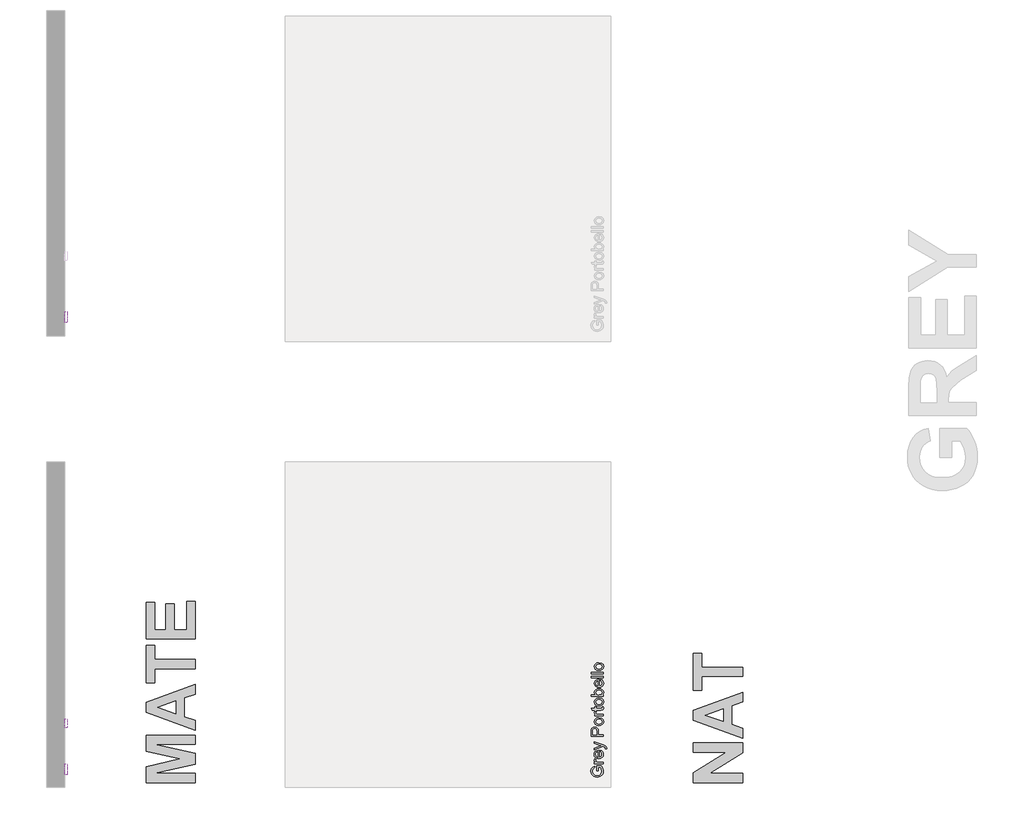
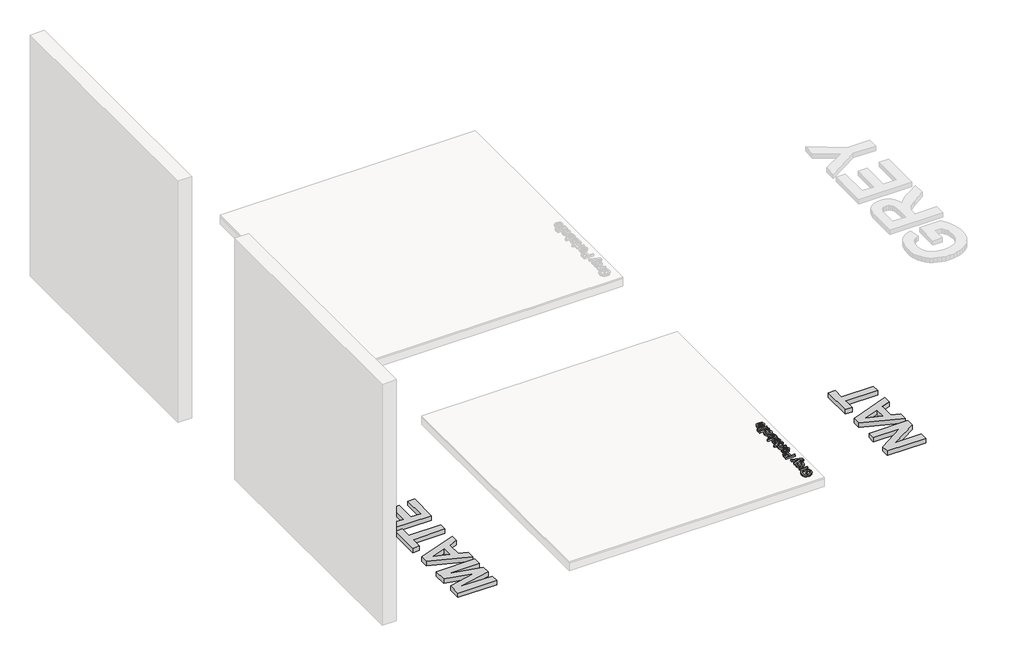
# One storey, part 6 of 8: 7 proxies.
"""IFC4 building model written with IfcOpenShell, lengths in millimetres."""

from ifc_helpers import new_model, si_unit, frame, origin, origin_with_axes, place, context, project, spatial, polyline, outline, extrude, element, save

model = new_model("IFC4")

# Units and contexts
model_context = context("Model", 3, world=origin())
ifc_project = project(units=[si_unit("LENGTHUNIT", "METRE", prefix="MILLI")], contexts=[model_context])

# Site, building, storey
site = spatial("IfcSite", under=ifc_project)
building = spatial("IfcBuilding", under=site)
storey = spatial("IfcBuildingStorey", under=building, Name="PORTOBELLO - SHOWROOM", Elevation=0.0)

# Proxies
placement = place(None, origin())
element("IfcBuildingElementProxy", 1, Name="10mm Arial", ObjectType="10mm Arial", at=placement, inside=storey, context=model_context, shape_type="SweptSolid", body=[
    extrude(outline(polyline([(-3382.1813288, 2099.5594233), (-3394.7383676, 2099.5594233), (-3394.7383676, 2140.3697993), (-3357.1898786, 2140.3697993), (-3345.3440783, 2120.2221287), (-3341.3709528, 2098.9217612), (-3342.9497797, 2084.8349465), (-3347.6862604, 2072.1031638), (-3355.414848, 2061.5265564), (-3365.9699955, 2053.9052677), (-3378.6312675, 2049.2975458), (-3392.6782284, 2047.7616384), (-3406.8263568, 2049.2914144), (-3419.9873352, 2053.8807423), (-3431.0268607, 2061.3395497), (-3438.8106306, 2071.4777644), (-3443.4275496, 2083.8263367), (-3444.9665226, 2097.9162171), (-3441.3980673, 2117.5611156), (-3431.4652534, 2131.332165), (-3414.84925, 2138.9227968), (-3411.5873629, 2127.3467767), (-3423.2001712, 2121.6200803), (-3429.8956236, 2111.8344193), (-3432.4094839, 2097.7200134), (-3429.6994198, 2081.6435702), (-3422.5870346, 2070.7052122), (-3412.9117381, 2064.2427518), (-3393.1932632, 2060.3186772), (-3371.3042845, 2065.0398295), (-3358.2076854, 2078.7740906), (-3353.9279916, 2097.9162171), (-3357.1530904, 2115.0963063), (-3364.0324837, 2127.8127606), (-3382.1813288, 2127.8127606), (-3382.1813288, 2099.5594233)])), frame((0.0, 0.0, 17.0), z_axis=(0.0, 0.0, 1.0), x_axis=(1.0, 0.0, 0.0)), (0.0, 0.0, 1.0), 20.0),
    extrude(outline(polyline([(-3342.9405826, 2159.2053575), (-3416.7131854, 2159.2053575), (-3416.7131854, 2170.1927664), (-3405.7993529, 2170.1927664), (-3415.8547941, 2177.9918647), (-3418.2828152, 2185.840014), (-3414.4077916, 2198.4461037), (-3403.1506025, 2194.2522489), (-3405.7257765, 2185.423081), (-3403.2487044, 2178.3229585), (-3396.3815738, 2173.79801), (-3381.7153449, 2171.7623963), (-3342.9405826, 2171.7623963), (-3342.9405826, 2159.2053575)])), frame((0.0, 0.0, 17.0), z_axis=(0.0, 0.0, 1.0), x_axis=(1.0, 0.0, 0.0)), (0.0, 0.0, 1.0), 20.0),
    extrude(outline(polyline([(-3364.9154005, 2257.944885), (-3363.3457706, 2270.2566691), (-3354.069013, 2265.8206254), (-3347.1344374, 2258.7419627), (-3342.8118239, 2249.1800965), (-3341.3709528, 2237.2944423), (-3343.8572219, 2222.5607684), (-3351.3160294, 2211.2238716), (-3363.2629972, 2203.9949904), (-3379.2137474, 2201.5853633), (-3395.7009921, 2204.0195159), (-3408.0311703, 2211.3219735), (-3415.719904, 2222.5055861), (-3418.2828152, 2236.5832038), (-3415.7260354, 2250.2224288), (-3408.0556958, 2261.1209329), (-3395.750043, 2268.2670407), (-3379.2873238, 2270.6490766), (-3375.9028094, 2270.5755002), (-3375.9028094, 2214.1424021), (-3366.5034244, 2216.3159716), (-3359.5933743, 2221.365152), (-3355.3443372, 2228.6522811), (-3353.9279916, 2237.539697), (-3356.5522165, 2249.8514811), (-3364.9154005, 2257.944885)]), holes=[polyline([(-3388.4598482, 2214.1424021), (-3388.4598482, 2258.0920378), (-3399.8396646, 2253.0643172), (-3404.2542485, 2245.7434655), (-3405.7257765, 2236.5341529), (-3401.0291497, 2221.0708464), (-3395.5385109, 2216.205607), (-3388.4598482, 2214.1424021)])]), frame((0.0, 0.0, 17.0), z_axis=(0.0, 0.0, 1.0), x_axis=(1.0, 0.0, 0.0)), (0.0, 0.0, 1.0), 20.0),
    extrude(outline(polyline([(-3314.6872454, 2283.2061153), (-3326.7783003, 2281.6364855), (-3325.6746543, 2288.0131067), (-3327.0603432, 2293.9727951), (-3330.9231041, 2297.6270896), (-3340.1692049, 2301.0606548), (-3343.2103628, 2302.0416735), (-3416.7131854, 2275.3579661), (-3416.7131854, 2288.5771925), (-3375.7311311, 2302.752912), (-3359.3481196, 2307.6825308), (-3373.8426702, 2312.6121495), (-3416.7131854, 2327.155751), (-3416.7131854, 2340.2768755), (-3341.1747491, 2314.5987123), (-3324.7917375, 2307.9277854), (-3315.9380442, 2300.6437219), (-3313.1176156, 2290.8825863), (-3314.6872454, 2283.2061153)])), frame((0.0, 0.0, 17.0), z_axis=(0.0, 0.0, 1.0), x_axis=(1.0, 0.0, 0.0)), (0.0, 0.0, 1.0), 20.0),
])
element("IfcBuildingElementProxy", 2, Name="10mm Arial", ObjectType="10mm Arial", at=placement, inside=storey, context=model_context, shape_type="SweptSolid", body=[
    extrude(outline(polyline([(-3340.9818111, 2387.5679022), (-3441.4381213, 2387.5679022), (-3441.4381213, 2424.7975601), (-3440.4816281, 2439.8071455), (-3435.7850013, 2452.008565), (-3426.0729166, 2459.9180279), (-3412.3754436, 2462.9101348), (-3400.5357748, 2460.8898495), (-3390.6704059, 2454.8289936), (-3384.0117418, 2443.4951625), (-3381.7921871, 2425.6559514), (-3381.7921871, 2400.124941), (-3340.9818111, 2400.124941), (-3340.9818111, 2387.5679022)]), holes=[polyline([(-3394.3492259, 2400.124941), (-3394.3492259, 2426.3917154), (-3398.9600135, 2444.883917), (-3404.5089003, 2448.9858013), (-3411.9339852, 2450.353096), (-3422.332783, 2447.1279972), (-3428.0226912, 2438.6544486), (-3428.8810825, 2426.0974098), (-3428.8810825, 2400.124941), (-3394.3492259, 2400.124941)])]), frame((0.0, 0.0, 17.0), z_axis=(0.0, 0.0, 1.0), x_axis=(1.0, 0.0, 0.0)), (0.0, 0.0, 1.0), 20.0),
    extrude(outline(polyline([(-3377.8681125, 2475.4671736), (-3395.655207, 2478.183369), (-3408.1570634, 2486.3319552), (-3414.2822986, 2496.3996591), (-3416.3240437, 2508.4539258), (-3413.8377746, 2521.645561), (-3406.3789671, 2532.1823145), (-3394.5362326, 2539.0892989), (-3378.8981821, 2541.3916271), (-3356.5554822, 2537.3203997), (-3343.9126043, 2525.4623367), (-3339.4121813, 2508.4539258), (-3341.8892534, 2495.1028751), (-3349.3204697, 2484.5783843), (-3361.4115246, 2477.7449763), (-3377.8681125, 2475.4671736)]), holes=[polyline([(-3377.892638, 2488.0242123), (-3366.52815, 2489.4773462), (-3358.4316804, 2493.8367479), (-3353.5848351, 2500.3973101), (-3351.96922, 2508.4539258), (-3353.5940322, 2516.4737533), (-3358.4684686, 2523.0220528), (-3366.6722371, 2527.3814545), (-3378.2850454, 2528.8345883), (-3389.3184396, 2527.3722574), (-3397.3045446, 2522.9852646), (-3402.1513899, 2516.427768), (-3403.767005, 2508.4539258), (-3402.1575212, 2500.3973101), (-3397.32907, 2493.8367479), (-3389.2509946, 2489.4773462), (-3377.892638, 2488.0242123)])]), frame((0.0, 0.0, 17.0), z_axis=(0.0, 0.0, 1.0), x_axis=(1.0, 0.0, 0.0)), (0.0, 0.0, 1.0), 20.0),
    extrude(outline(polyline([(-3340.9818111, 2555.5182957), (-3414.7544139, 2555.5182957), (-3414.7544139, 2566.5057046), (-3403.8405813, 2566.5057046), (-3413.8960226, 2574.3048029), (-3416.3240437, 2582.1529522), (-3412.44902, 2594.7590419), (-3401.191831, 2590.5651871), (-3403.767005, 2581.7360192), (-3401.2899329, 2574.6358967), (-3394.4228023, 2570.1109482), (-3379.7565734, 2568.0753345), (-3340.9818111, 2568.0753345), (-3340.9818111, 2555.5182957)])), frame((0.0, 0.0, 17.0), z_axis=(0.0, 0.0, 1.0), x_axis=(1.0, 0.0, 0.0)), (0.0, 0.0, 1.0), 20.0),
    extrude(outline(polyline([(-3351.4541852, 2629.2908985), (-3340.6139291, 2630.8605283), (-3339.4121813, 2621.4672747), (-3341.4968459, 2610.9458497), (-3346.9660249, 2605.6973999), (-3361.2153208, 2604.1768209), (-3402.1973751, 2604.1768209), (-3402.1973751, 2594.7590419), (-3412.44902, 2594.7590419), (-3414.7544139, 2594.7590419), (-3414.7544139, 2604.1768209), (-3432.6825298, 2604.1768209), (-3440.0646951, 2616.7338597), (-3414.7544139, 2616.7338597), (-3414.7544139, 2629.2908985), (-3402.1973751, 2629.2908985), (-3402.1973751, 2616.7338597), (-3361.5832028, 2616.7338597), (-3355.1084797, 2617.3960473), (-3352.8153486, 2619.5420256), (-3351.96922, 2623.8217195), (-3351.4541852, 2629.2908985)])), frame((0.0, 0.0, 17.0), z_axis=(0.0, 0.0, 1.0), x_axis=(1.0, 0.0, 0.0)), (0.0, 0.0, 1.0), 20.0),
    extrude(outline(polyline([(-3377.8681125, 2638.7086776), (-3395.655207, 2641.424873), (-3408.1570634, 2649.5734592), (-3414.2822986, 2659.6411631), (-3416.3240437, 2671.6954298), (-3413.8377746, 2684.887065), (-3406.3789671, 2695.4238185), (-3394.5362326, 2702.3308029), (-3378.8981821, 2704.6331311), (-3356.5554822, 2700.5619037), (-3343.9126043, 2688.7038407), (-3339.4121813, 2671.6954298), (-3341.8892534, 2658.3443791), (-3349.3204697, 2647.8198883), (-3361.4115246, 2640.9864802), (-3377.8681125, 2638.7086776)]), holes=[polyline([(-3377.892638, 2651.2657163), (-3366.52815, 2652.7188502), (-3358.4316804, 2657.0782519), (-3353.5848351, 2663.6388141), (-3351.96922, 2671.6954298), (-3353.5940322, 2679.7152573), (-3358.4684686, 2686.2635568), (-3366.6722371, 2690.6229584), (-3378.2850454, 2692.0760923), (-3389.3184396, 2690.6137614), (-3397.3045446, 2686.2267686), (-3402.1513899, 2679.669272), (-3403.767005, 2671.6954298), (-3402.1575212, 2663.6388141), (-3397.32907, 2657.0782519), (-3389.2509946, 2652.7188502), (-3377.892638, 2651.2657163)])]), frame((0.0, 0.0, 17.0), z_axis=(0.0, 0.0, 1.0), x_axis=(1.0, 0.0, 0.0)), (0.0, 0.0, 1.0), 20.0),
    extrude(outline(polyline([(-3340.9818111, 2731.3168385), (-3340.9818111, 2718.7597997), (-3441.4381213, 2718.7597997), (-3441.4381213, 2731.3168385), (-3404.1839379, 2731.3168385), (-3413.2890173, 2740.1092182), (-3416.3240437, 2751.0353134), (-3413.5894542, 2763.6168777), (-3405.9007205, 2773.3780133), (-3393.9445557, 2779.3744898), (-3378.9717585, 2781.5449936), (-3362.2086022, 2779.2978477), (-3349.7374026, 2772.5564101), (-3341.9934866, 2762.6634502), (-3339.4121813, 2750.961737), (-3342.7415133, 2739.7965185), (-3352.7295095, 2731.3168385), (-3340.9818111, 2731.3168385)]), holes=[polyline([(-3378.3831473, 2731.3168385), (-3360.8229134, 2734.7504038), (-3354.1826434, 2741.3293601), (-3351.96922, 2749.8826165), (-3353.6001635, 2757.1298918), (-3358.4929941, 2763.3225721), (-3366.6170548, 2767.5716091), (-3377.9416889, 2768.9879548), (-3389.4318699, 2767.6298571), (-3397.4639601, 2763.555564), (-3402.1912437, 2757.5560218), (-3403.767005, 2750.4221768), (-3402.1360614, 2743.1749015), (-3397.2432309, 2736.9822212), (-3389.266323, 2732.7331842), (-3378.3831473, 2731.3168385)])]), frame((0.0, 0.0, 17.0), z_axis=(0.0, 0.0, 1.0), x_axis=(1.0, 0.0, 0.0)), (0.0, 0.0, 1.0), 20.0),
    extrude(outline(polyline([(-3362.956629, 2847.3222943), (-3361.3869991, 2859.6340784), (-3352.1102415, 2855.1980347), (-3345.1756659, 2848.1193719), (-3340.8530524, 2838.5575058), (-3339.4121813, 2826.6718516), (-3341.8984504, 2811.9381777), (-3349.3572579, 2800.6012809), (-3361.3042257, 2793.3723997), (-3377.2549758, 2790.9627726), (-3393.7422206, 2793.3969252), (-3406.0723988, 2800.6993828), (-3413.7611325, 2811.8829954), (-3416.3240437, 2825.9606131), (-3413.7672639, 2839.5998381), (-3406.0969243, 2850.4983422), (-3393.7912715, 2857.6444499), (-3377.3285522, 2860.0264859), (-3373.9440379, 2859.9529095), (-3373.9440379, 2803.5198114), (-3364.5446529, 2805.6933809), (-3357.6346028, 2810.7425612), (-3353.3855657, 2818.0296904), (-3351.96922, 2826.9171063), (-3354.5934449, 2839.2288904), (-3362.956629, 2847.3222943)]), holes=[polyline([(-3386.5010766, 2803.5198114), (-3386.5010766, 2847.4694471), (-3397.880893, 2842.4417265), (-3402.295477, 2835.1208748), (-3403.767005, 2825.9115622), (-3399.0703781, 2810.4482556), (-3393.5797394, 2805.5830163), (-3386.5010766, 2803.5198114)])]), frame((0.0, 0.0, 17.0), z_axis=(0.0, 0.0, 1.0), x_axis=(1.0, 0.0, 0.0)), (0.0, 0.0, 1.0), 20.0),
    extrude(outline(polyline([(-3340.9818111, 2872.5835246), (-3441.4381213, 2872.5835246), (-3441.4381213, 2885.1405634), (-3340.9818111, 2885.1405634), (-3340.9818111, 2872.5835246)])), frame((0.0, 0.0, 17.0), z_axis=(0.0, 0.0, 1.0), x_axis=(1.0, 0.0, 0.0)), (0.0, 0.0, 1.0), 20.0),
    extrude(outline(polyline([(-3340.9818111, 2903.9761215), (-3441.4381213, 2903.9761215), (-3441.4381213, 2916.5331603), (-3340.9818111, 2916.5331603), (-3340.9818111, 2903.9761215)])), frame((0.0, 0.0, 17.0), z_axis=(0.0, 0.0, 1.0), x_axis=(1.0, 0.0, 0.0)), (0.0, 0.0, 1.0), 20.0),
    extrude(outline(polyline([(-3377.8681125, 2932.2294588), (-3395.655207, 2934.9456542), (-3408.1570634, 2943.0942404), (-3414.2822986, 2953.1619443), (-3416.3240437, 2965.216211), (-3413.8377746, 2978.4078462), (-3406.3789671, 2988.9445997), (-3394.5362326, 2995.8515842), (-3378.8981821, 2998.1539123), (-3356.5554822, 2994.0826849), (-3343.9126043, 2982.2246219), (-3339.4121813, 2965.216211), (-3341.8892534, 2951.8651603), (-3349.3204697, 2941.3406695), (-3361.4115246, 2934.5072615), (-3377.8681125, 2932.2294588)]), holes=[polyline([(-3377.892638, 2944.7864975), (-3366.52815, 2946.2396314), (-3358.4316804, 2950.5990331), (-3353.5848351, 2957.1595953), (-3351.96922, 2965.216211), (-3353.5940322, 2973.2360385), (-3358.4684686, 2979.784338), (-3366.6722371, 2984.1437397), (-3378.2850454, 2985.5968735), (-3389.3184396, 2984.1345426), (-3397.3045446, 2979.7475498), (-3402.1513899, 2973.1900533), (-3403.767005, 2965.216211), (-3402.1575212, 2957.1595953), (-3397.32907, 2950.5990331), (-3389.2509946, 2946.2396314), (-3377.892638, 2944.7864975)])]), frame((0.0, 0.0, 17.0), z_axis=(0.0, 0.0, 1.0), x_axis=(1.0, 0.0, 0.0)), (0.0, 0.0, 1.0), 20.0),
])
element("IfcBuildingElementProxy", 3, Name="10mm Arial", ObjectType="10mm Arial", at=placement, inside=storey, context=model_context, shape_type="SweptSolid", body=[
    extrude(outline(polyline([(2116.5125025, 2570.2225786), (2116.5125025, 2582.7796173), (2157.3228785, 2582.7796173), (2157.3228785, 2545.2311284), (2137.1752079, 2533.3853281), (2115.8748403, 2529.4122026), (2101.7880256, 2530.9910295), (2089.0562429, 2535.7275101), (2078.4796355, 2543.4560977), (2070.8583469, 2554.0112453), (2066.2506249, 2566.6725173), (2064.7147175, 2580.7194782), (2066.2444935, 2594.8676066), (2070.8338214, 2608.0285849), (2078.2926289, 2619.0681105), (2088.4308435, 2626.8518804), (2100.7794158, 2631.4687994), (2114.8692962, 2633.0077724), (2134.5141948, 2629.4393171), (2148.2852441, 2619.5065032), (2155.875876, 2602.8904997), (2144.2998558, 2599.6286127), (2138.5731594, 2611.241421), (2128.7874984, 2617.9368733), (2114.6730925, 2620.4507336), (2098.5966493, 2617.7406696), (2087.6582913, 2610.6282844), (2081.1958309, 2600.9529879), (2077.2717563, 2581.234513), (2081.9929086, 2559.3455342), (2095.7271697, 2546.2489352), (2114.8692962, 2541.9692413), (2132.0493854, 2545.1943402), (2144.7658397, 2552.0737335), (2144.7658397, 2570.2225786), (2116.5125025, 2570.2225786)])), frame((-7810.2594677, 0.0, 0.0), z_axis=(1.0, 0.0, 0.0), x_axis=(0.0, 1.0, 0.0)), (0.0, 0.0, 1.0), 20.0),
    extrude(outline(polyline([(2176.1584366, 2530.9818324), (2176.1584366, 2604.7544352), (2187.1458455, 2604.7544352), (2187.1458455, 2593.8406027), (2194.9449438, 2603.8960439), (2202.7930931, 2606.324065), (2215.3991828, 2602.4490413), (2211.205328, 2591.1918523), (2202.3761601, 2593.7670263), (2195.2760376, 2591.2899542), (2190.7510891, 2584.4228236), (2188.7154754, 2569.7565947), (2188.7154754, 2530.9818324), (2176.1584366, 2530.9818324)])), frame((-7810.2594677, 0.0, 0.0), z_axis=(1.0, 0.0, 0.0), x_axis=(0.0, 1.0, 0.0)), (0.0, 0.0, 1.0), 20.0),
    extrude(outline(polyline([(2274.8979641, 2552.9566503), (2287.2097482, 2551.3870204), (2282.7737045, 2542.1102628), (2275.6950418, 2535.1756872), (2266.1331756, 2530.8530737), (2254.2475215, 2529.4122026), (2239.5138476, 2531.8984717), (2228.1769507, 2539.3572792), (2220.9480695, 2551.304247), (2218.5384425, 2567.2549971), (2220.972595, 2583.7422419), (2228.2750526, 2596.0724201), (2239.4586653, 2603.7611538), (2253.5362829, 2606.324065), (2267.1755079, 2603.7672852), (2278.074012, 2596.0969456), (2285.2201198, 2583.7912928), (2287.6021557, 2567.3285735), (2287.5285793, 2563.9440592), (2231.0954812, 2563.9440592), (2233.2690507, 2554.5446742), (2238.3182311, 2547.6346241), (2245.6053603, 2543.385587), (2254.4927761, 2541.9692413), (2266.8045602, 2544.5934662), (2274.8979641, 2552.9566503)]), holes=[polyline([(2231.0954812, 2576.5010979), (2275.0451169, 2576.5010979), (2270.0173963, 2587.8809143), (2262.6965446, 2592.2954983), (2253.487232, 2593.7670263), (2238.0239255, 2589.0703994), (2233.1586861, 2583.5797607), (2231.0954812, 2576.5010979)])]), frame((-7810.2594677, 0.0, 0.0), z_axis=(1.0, 0.0, 0.0), x_axis=(0.0, 1.0, 0.0)), (0.0, 0.0, 1.0), 20.0),
    extrude(outline(polyline([(2300.1591945, 2502.7284952), (2298.5895646, 2514.8195501), (2304.9661859, 2513.7159041), (2310.9258742, 2515.101593), (2314.5801687, 2518.9643539), (2318.013734, 2528.2104547), (2318.9947526, 2531.2516125), (2292.3110452, 2604.7544352), (2305.5302716, 2604.7544352), (2319.7059911, 2563.7723809), (2324.6356099, 2547.3893694), (2329.5652286, 2561.88392), (2344.1088302, 2604.7544352), (2357.2299546, 2604.7544352), (2331.5517914, 2529.2159988), (2324.8808645, 2512.8329873), (2317.596801, 2503.979294), (2307.8356654, 2501.1588653), (2300.1591945, 2502.7284952)])), frame((-7810.2594677, 0.0, 0.0), z_axis=(1.0, 0.0, 0.0), x_axis=(0.0, 1.0, 0.0)), (0.0, 0.0, 1.0), 20.0),
])
element("IfcBuildingElementProxy", 4, Name="10mm Arial", ObjectType="10mm Arial", at=placement, inside=storey, context=model_context, shape_type="SweptSolid", body=[
    extrude(outline(polyline([(2456.4684616, 2530.9818324), (2456.4684616, 2631.4381426), (2493.6981195, 2631.4381426), (2508.7077049, 2630.4816494), (2520.9091245, 2625.7850226), (2528.8185873, 2616.0729379), (2531.8106942, 2602.3754649), (2529.790409, 2590.5357961), (2523.7295531, 2580.6704272), (2512.3957219, 2574.0117631), (2494.5565109, 2571.7922084), (2469.0255004, 2571.7922084), (2469.0255004, 2530.9818324), (2456.4684616, 2530.9818324)]), holes=[polyline([(2469.0255004, 2584.3492472), (2495.2922749, 2584.3492472), (2513.7844765, 2588.9600348), (2517.8863607, 2594.5089216), (2519.2536555, 2601.9340065), (2516.0285567, 2612.3328043), (2507.555008, 2618.0227125), (2494.9979693, 2618.8811038), (2469.0255004, 2618.8811038), (2469.0255004, 2584.3492472)])]), frame((-7810.2594677, 0.0, 0.0), z_axis=(1.0, 0.0, 0.0), x_axis=(0.0, 1.0, 0.0)), (0.0, 0.0, 1.0), 20.0),
    extrude(outline(polyline([(2544.367733, 2567.8681338), (2547.0839284, 2585.6552283), (2555.2325146, 2598.1570847), (2565.3002185, 2604.2823199), (2577.3544852, 2606.324065), (2590.5461205, 2603.8377959), (2601.0828739, 2596.3789884), (2607.9898584, 2584.5362539), (2610.2921865, 2568.8982034), (2606.2209591, 2546.5555035), (2594.3628962, 2533.9126256), (2577.3544852, 2529.4122026), (2564.0034345, 2531.8892747), (2553.4789438, 2539.320491), (2546.6455357, 2551.4115459), (2544.367733, 2567.8681338)]), holes=[polyline([(2556.9247718, 2567.8926593), (2558.3779057, 2556.5281713), (2562.7373073, 2548.4317017), (2569.2978696, 2543.5848564), (2577.3544852, 2541.9692413), (2585.3743127, 2543.5940535), (2591.9226123, 2548.4684899), (2596.2820139, 2556.6722584), (2597.7351478, 2568.2850667), (2596.2728168, 2579.3184609), (2591.8858241, 2587.3045659), (2585.3283275, 2592.1514112), (2577.3544852, 2593.7670263), (2569.2978696, 2592.1575425), (2562.7373073, 2587.3290913), (2558.3779057, 2579.2510159), (2556.9247718, 2567.8926593)])]), frame((-7810.2594677, 0.0, 0.0), z_axis=(1.0, 0.0, 0.0), x_axis=(0.0, 1.0, 0.0)), (0.0, 0.0, 1.0), 20.0),
    extrude(outline(polyline([(2624.4188552, 2530.9818324), (2624.4188552, 2604.7544352), (2635.4062641, 2604.7544352), (2635.4062641, 2593.8406027), (2643.2053624, 2603.8960439), (2651.0535116, 2606.324065), (2663.6596013, 2602.4490413), (2659.4657466, 2591.1918523), (2650.6365787, 2593.7670263), (2643.5364562, 2591.2899542), (2639.0115076, 2584.4228236), (2636.9758939, 2569.7565947), (2636.9758939, 2530.9818324), (2624.4188552, 2530.9818324)])), frame((-7810.2594677, 0.0, 0.0), z_axis=(1.0, 0.0, 0.0), x_axis=(0.0, 1.0, 0.0)), (0.0, 0.0, 1.0), 20.0),
    extrude(outline(polyline([(2698.1914579, 2541.4542065), (2699.7610878, 2530.6139504), (2690.3678342, 2529.4122026), (2679.8464091, 2531.4968672), (2674.5979593, 2536.9660462), (2673.0773804, 2551.2153421), (2673.0773804, 2592.1973964), (2663.6596013, 2592.1973964), (2663.6596013, 2602.4490413), (2663.6596013, 2604.7544352), (2673.0773804, 2604.7544352), (2673.0773804, 2622.6825511), (2685.6344192, 2630.0647164), (2685.6344192, 2604.7544352), (2698.1914579, 2604.7544352), (2698.1914579, 2592.1973964), (2685.6344192, 2592.1973964), (2685.6344192, 2551.5832241), (2686.2966068, 2545.108501), (2688.4425851, 2542.8153699), (2692.7222789, 2541.9692413), (2698.1914579, 2541.4542065)])), frame((-7810.2594677, 0.0, 0.0), z_axis=(1.0, 0.0, 0.0), x_axis=(0.0, 1.0, 0.0)), (0.0, 0.0, 1.0), 20.0),
    extrude(outline(polyline([(2707.609237, 2567.8681338), (2710.3254324, 2585.6552283), (2718.4740186, 2598.1570847), (2728.5417225, 2604.2823199), (2740.5959892, 2606.324065), (2753.7876244, 2603.8377959), (2764.3243779, 2596.3789884), (2771.2313624, 2584.5362539), (2773.5336905, 2568.8982034), (2769.4624631, 2546.5555035), (2757.6044001, 2533.9126256), (2740.5959892, 2529.4122026), (2727.2449385, 2531.8892747), (2716.7204478, 2539.320491), (2709.8870397, 2551.4115459), (2707.609237, 2567.8681338)]), holes=[polyline([(2720.1662758, 2567.8926593), (2721.6194097, 2556.5281713), (2725.9788113, 2548.4317017), (2732.5393735, 2543.5848564), (2740.5959892, 2541.9692413), (2748.6158167, 2543.5940535), (2755.1641162, 2548.4684899), (2759.5235179, 2556.6722584), (2760.9766518, 2568.2850667), (2759.5143208, 2579.3184609), (2755.127328, 2587.3045659), (2748.5698315, 2592.1514112), (2740.5959892, 2593.7670263), (2732.5393735, 2592.1575425), (2725.9788113, 2587.3290913), (2721.6194097, 2579.2510159), (2720.1662758, 2567.8926593)])]), frame((-7810.2594677, 0.0, 0.0), z_axis=(1.0, 0.0, 0.0), x_axis=(0.0, 1.0, 0.0)), (0.0, 0.0, 1.0), 20.0),
    extrude(outline(polyline([(2800.2173979, 2530.9818324), (2787.6603592, 2530.9818324), (2787.6603592, 2631.4381426), (2800.2173979, 2631.4381426), (2800.2173979, 2594.1839592), (2809.0097776, 2603.2890386), (2819.9358729, 2606.324065), (2832.5174371, 2603.5894755), (2842.2785727, 2595.9007418), (2848.2750492, 2583.944577), (2850.445553, 2568.9717798), (2848.1984071, 2552.2086235), (2841.4569696, 2539.7374239), (2831.5640096, 2531.9935079), (2819.8622965, 2529.4122026), (2808.6970779, 2532.7415346), (2800.2173979, 2542.7295308), (2800.2173979, 2530.9818324)]), holes=[polyline([(2800.2173979, 2568.3831686), (2803.6509632, 2550.8229347), (2810.2299196, 2544.1826647), (2818.7831759, 2541.9692413), (2826.0304513, 2543.6001848), (2832.2231315, 2548.4930154), (2836.4721685, 2556.6170761), (2837.8885142, 2567.9417102), (2836.5304165, 2579.4318912), (2832.4561234, 2587.4639814), (2826.4565812, 2592.191265), (2819.3227362, 2593.7670263), (2812.0754609, 2592.1360827), (2805.8827807, 2587.2432522), (2801.6337436, 2579.2663443), (2800.2173979, 2568.3831686)])]), frame((-7810.2594677, 0.0, 0.0), z_axis=(1.0, 0.0, 0.0), x_axis=(0.0, 1.0, 0.0)), (0.0, 0.0, 1.0), 20.0),
    extrude(outline(polyline([(2916.2228537, 2552.9566503), (2928.5346378, 2551.3870204), (2924.0985941, 2542.1102628), (2917.0199314, 2535.1756872), (2907.4580652, 2530.8530737), (2895.5724111, 2529.4122026), (2880.8387372, 2531.8984717), (2869.5018403, 2539.3572792), (2862.2729591, 2551.304247), (2859.8633321, 2567.2549971), (2862.2974846, 2583.7422419), (2869.5999422, 2596.0724201), (2880.7835549, 2603.7611538), (2894.8611726, 2606.324065), (2908.5003975, 2603.7672852), (2919.3989016, 2596.0969456), (2926.5450094, 2583.7912928), (2928.9270453, 2567.3285735), (2928.8534689, 2563.9440592), (2872.4203708, 2563.9440592), (2874.5939403, 2554.5446742), (2879.6431207, 2547.6346241), (2886.9302499, 2543.385587), (2895.8176657, 2541.9692413), (2908.1294498, 2544.5934662), (2916.2228537, 2552.9566503)]), holes=[polyline([(2872.4203708, 2576.5010979), (2916.3700065, 2576.5010979), (2911.3422859, 2587.8809143), (2904.0214342, 2592.2954983), (2894.8121216, 2593.7670263), (2879.3488151, 2589.0703994), (2874.4835757, 2583.5797607), (2872.4203708, 2576.5010979)])]), frame((-7810.2594677, 0.0, 0.0), z_axis=(1.0, 0.0, 0.0), x_axis=(0.0, 1.0, 0.0)), (0.0, 0.0, 1.0), 20.0),
    extrude(outline(polyline([(-7790.2594677, 2954.0411228), (-7790.2594677, 2941.4840841), (-7810.2594677, 2941.4840841), (-7810.2594677, 2954.0411228), (-7790.2594677, 2954.0411228)])), frame((0.0, 0.0, 2530.9818324), z_axis=(0.0, 0.0, 1.0), x_axis=(1.0, 0.0, 0.0)), (0.0, 0.0, 1.0), 100.4563101),
    extrude(outline(polyline([(-7790.2594677, 2985.4337198), (-7790.2594677, 2972.876681), (-7810.2594677, 2972.876681), (-7810.2594677, 2985.4337198), (-7790.2594677, 2985.4337198)])), frame((0.0, 0.0, 2530.9818324), z_axis=(0.0, 0.0, 1.0), x_axis=(1.0, 0.0, 0.0)), (0.0, 0.0, 1.0), 100.4563101),
    extrude(outline(polyline([(3001.1300182, 2567.8681338), (3003.8462136, 2585.6552283), (3011.9947998, 2598.1570847), (3022.0625037, 2604.2823199), (3034.1167705, 2606.324065), (3047.3084057, 2603.8377959), (3057.8451591, 2596.3789884), (3064.7521436, 2584.5362539), (3067.0544718, 2568.8982034), (3062.9832443, 2546.5555035), (3051.1251814, 2533.9126256), (3034.1167705, 2529.4122026), (3020.7657197, 2531.8892747), (3010.241229, 2539.320491), (3003.4078209, 2551.4115459), (3001.1300182, 2567.8681338)]), holes=[polyline([(3013.687057, 2567.8926593), (3015.1401909, 2556.5281713), (3019.4995925, 2548.4317017), (3026.0601548, 2543.5848564), (3034.1167705, 2541.9692413), (3042.136598, 2543.5940535), (3048.6848975, 2548.4684899), (3053.0442991, 2556.6722584), (3054.497433, 2568.2850667), (3053.0351021, 2579.3184609), (3048.6481093, 2587.3045659), (3042.0906127, 2592.1514112), (3034.1167705, 2593.7670263), (3026.0601548, 2592.1575425), (3019.4995925, 2587.3290913), (3015.1401909, 2579.2510159), (3013.687057, 2567.8926593)])]), frame((-7810.2594677, 0.0, 0.0), z_axis=(1.0, 0.0, 0.0), x_axis=(0.0, 1.0, 0.0)), (0.0, 0.0, 1.0), 20.0),
])
element("IfcBuildingElementProxy", 5, Name="10mm Arial", ObjectType="10mm Arial", at=placement, inside=storey, context=model_context, shape_type="SweptSolid", body=[
    extrude(outline(polyline([(5870.8944239, 2557.7153138), (5870.8944239, 2570.2723526), (5911.7047999, 2570.2723526), (5911.7047999, 2532.7238636), (5891.5571292, 2520.8780634), (5870.2567617, 2516.9049378), (5856.169947, 2518.4837647), (5843.4381643, 2523.2202454), (5832.8615569, 2530.948833), (5825.2402683, 2541.5039806), (5820.6325463, 2554.1652526), (5819.0966389, 2568.2122134), (5820.6264149, 2582.3603418), (5825.2157428, 2595.5213202), (5832.6745502, 2606.5608457), (5842.8127649, 2614.3446156), (5855.1613372, 2618.9615346), (5869.2512176, 2620.5005077), (5888.8961162, 2616.9320523), (5902.6671655, 2606.9992384), (5910.2577973, 2590.383235), (5898.6817772, 2587.121348), (5892.9550808, 2598.7341563), (5883.1694198, 2605.4296086), (5869.0550139, 2607.9434689), (5852.9785707, 2605.2334049), (5842.0402127, 2598.1210196), (5835.5777523, 2588.4457231), (5831.6536777, 2568.7272482), (5836.37483, 2546.8382695), (5850.1090911, 2533.7416705), (5869.2512176, 2529.4619766), (5886.4313068, 2532.6870754), (5899.1477611, 2539.5664687), (5899.1477611, 2557.7153138), (5870.8944239, 2557.7153138)])), frame((-7810.2594677, 0.0, 0.0), z_axis=(1.0, 0.0, 0.0), x_axis=(0.0, 1.0, 0.0)), (0.0, 0.0, 1.0), 20.0),
    extrude(outline(polyline([(5930.540358, 2518.4745677), (5930.540358, 2592.2471704), (5941.5277669, 2592.2471704), (5941.5277669, 2581.3333379), (5949.3268652, 2591.3887791), (5957.1750145, 2593.8168003), (5969.7811042, 2589.9417766), (5965.5872494, 2578.6845875), (5956.7580815, 2581.2597615), (5949.657959, 2578.7826894), (5945.1330105, 2571.9155588), (5943.0973968, 2557.24933), (5943.0973968, 2518.4745677), (5930.540358, 2518.4745677)])), frame((-7810.2594677, 0.0, 0.0), z_axis=(1.0, 0.0, 0.0), x_axis=(0.0, 1.0, 0.0)), (0.0, 0.0, 1.0), 20.0),
    extrude(outline(polyline([(6029.2798855, 2540.4493855), (6041.5916696, 2538.8797557), (6037.1556259, 2529.602998), (6030.0769632, 2522.6684224), (6020.515097, 2518.345809), (6008.6294428, 2516.9049378), (5993.8957689, 2519.391207), (5982.5588721, 2526.8500144), (5975.3299909, 2538.7969822), (5972.9203638, 2554.7477324), (5975.3545164, 2571.2349771), (5982.656974, 2583.5651553), (5993.8405866, 2591.253889), (6007.9182043, 2593.8168003), (6021.5574293, 2591.2600204), (6032.4559334, 2583.5896808), (6039.6020412, 2571.2840281), (6041.9840771, 2554.8213088), (6041.9105007, 2551.4367944), (5985.4774026, 2551.4367944), (5987.6509721, 2542.0374095), (5992.7001525, 2535.1273593), (5999.9872816, 2530.8783223), (6008.8746975, 2529.4619766), (6021.1864816, 2532.0862015), (6029.2798855, 2540.4493855)]), holes=[polyline([(5985.4774026, 2563.9938332), (6029.4270383, 2563.9938332), (6024.3993177, 2575.3736496), (6017.078466, 2579.7882335), (6007.8691534, 2581.2597615), (5992.4058469, 2576.5631347), (5987.5406075, 2571.0724959), (5985.4774026, 2563.9938332)])]), frame((-7810.2594677, 0.0, 0.0), z_axis=(1.0, 0.0, 0.0), x_axis=(0.0, 1.0, 0.0)), (0.0, 0.0, 1.0), 20.0),
    extrude(outline(polyline([(6054.5411158, 2490.2212304), (6052.971486, 2502.3122853), (6059.3481072, 2501.2086394), (6065.3077956, 2502.5943282), (6068.9620901, 2506.4570892), (6072.3956553, 2515.70319), (6073.376674, 2518.7443478), (6046.6929666, 2592.2471704), (6059.912193, 2592.2471704), (6074.0879125, 2551.2651162), (6079.0175313, 2534.8821046), (6083.94715, 2549.3766553), (6098.4907515, 2592.2471704), (6111.611876, 2592.2471704), (6085.9337128, 2516.7087341), (6079.2627859, 2500.3257226), (6071.9787224, 2491.4720292), (6062.2175868, 2488.6516006), (6054.5411158, 2490.2212304)])), frame((-7810.2594677, 0.0, 0.0), z_axis=(1.0, 0.0, 0.0), x_axis=(0.0, 1.0, 0.0)), (0.0, 0.0, 1.0), 20.0),
])
element("IfcBuildingElementProxy", 6, Name="400mm Arial", ObjectType="400mm Arial", at=placement, inside=storey, context=model_context, shape_type="SweptSolid", body=[
    extrude(outline(polyline([(-2186.6051838, 2001.7071122), (-2594.7089437, 2001.7071122), (-2594.7089437, 2083.1861615), (-2320.0081489, 2254.3427731), (-2594.7089437, 2254.3427731), (-2594.7089437, 2332.0768226), (-2186.6051838, 2332.0768226), (-2186.6051838, 2248.0673681), (-2457.2573301, 2079.4411617), (-2186.6051838, 2079.4411617), (-2186.6051838, 2001.7071122)])), origin_with_axes(), (0.0, 0.0, 1.0), 50.0),
    extrude(outline(polyline([(-2186.6051838, 2753.1362576), (-2186.6051838, 2671.4547758), (-2277.2949082, 2639.4704534), (-2277.2949082, 2485.4193813), (-2186.6051838, 2453.8399237), (-2186.6051838, 2370.9438474), (-2594.7089437, 2519.7316766), (-2594.7089437, 2602.728969), (-2186.6051838, 2753.1362576)]), holes=[polyline([(-2348.5511203, 2614.5712656), (-2497.5413818, 2562.0400525), (-2348.5511203, 2510.2173528), (-2348.5511203, 2614.5712656)])]), origin_with_axes(), (0.0, 0.0, 1.0), 50.0),
    extrude(outline(polyline([(-2186.6051838, 2882.6930068), (-2523.4527317, 2882.6930068), (-2523.4527317, 2766.0919325), (-2594.7089437, 2766.0919325), (-2594.7089437, 3077.0281306), (-2523.4527317, 3077.0281306), (-2523.4527317, 2960.4270563), (-2186.6051838, 2960.4270563), (-2186.6051838, 2882.6930068)])), origin_with_axes(), (0.0, 0.0, 1.0), 50.0),
])
element("IfcBuildingElementProxy", 7, Name="400mm Arial", ObjectType="400mm Arial", at=placement, inside=storey, context=model_context, shape_type="SweptSolid", body=[
    extrude(outline(polyline([(-6726.6051838, 2001.7071122), (-7134.7089437, 2001.7071122), (-7134.7089437, 2134.7052125), (-6856.3643654, 2199.2811547), (-7134.7089437, 2263.6546645), (-7134.7089437, 2396.8551972), (-6726.6051838, 2396.8551972), (-6726.6051838, 2319.1211477), (-7047.8654353, 2315.882229), (-6726.6051838, 2244.8284494), (-6726.6051838, 2153.9362925), (-7047.8654353, 2082.6800804), (-6726.6051838, 2079.4411617), (-6726.6051838, 2001.7071122)])), origin_with_axes(), (0.0, 0.0, 1.0), 50.0),
    extrude(outline(polyline([(-6726.6051838, 2817.9146322), (-6726.6051838, 2736.2331504), (-6817.2949082, 2704.248828), (-6817.2949082, 2550.1977559), (-6726.6051838, 2518.6182983), (-6726.6051838, 2435.722222), (-7134.7089437, 2584.5100512), (-7134.7089437, 2667.5073436), (-6726.6051838, 2817.9146322)]), holes=[polyline([(-6888.5511203, 2679.3496402), (-7037.5413818, 2626.8184271), (-6888.5511203, 2574.9957274), (-6888.5511203, 2679.3496402)])]), origin_with_axes(), (0.0, 0.0, 1.0), 50.0),
    extrude(outline(polyline([(-6726.6051838, 2947.4713814), (-7063.4527317, 2947.4713814), (-7063.4527317, 2830.8703071), (-7134.7089437, 2830.8703071), (-7134.7089437, 3141.8065052), (-7063.4527317, 3141.8065052), (-7063.4527317, 3025.2054309), (-6726.6051838, 3025.2054309), (-6726.6051838, 2947.4713814)])), origin_with_axes(), (0.0, 0.0, 1.0), 50.0),
    extrude(outline(polyline([(-6726.6051838, 3193.6292048), (-7134.7089437, 3193.6292048), (-7134.7089437, 3498.0875655), (-7063.4527317, 3498.0875655), (-7063.4527317, 3271.3632544), (-6972.7630072, 3271.3632544), (-6972.7630072, 3485.1318905), (-6901.5067952, 3485.1318905), (-6901.5067952, 3271.3632544), (-6797.8613958, 3271.3632544), (-6797.8613958, 3504.5654029), (-6726.6051838, 3504.5654029), (-6726.6051838, 3193.6292048)])), origin_with_axes(), (0.0, 0.0, 1.0), 50.0),
])

save(model, "model.ifc")
